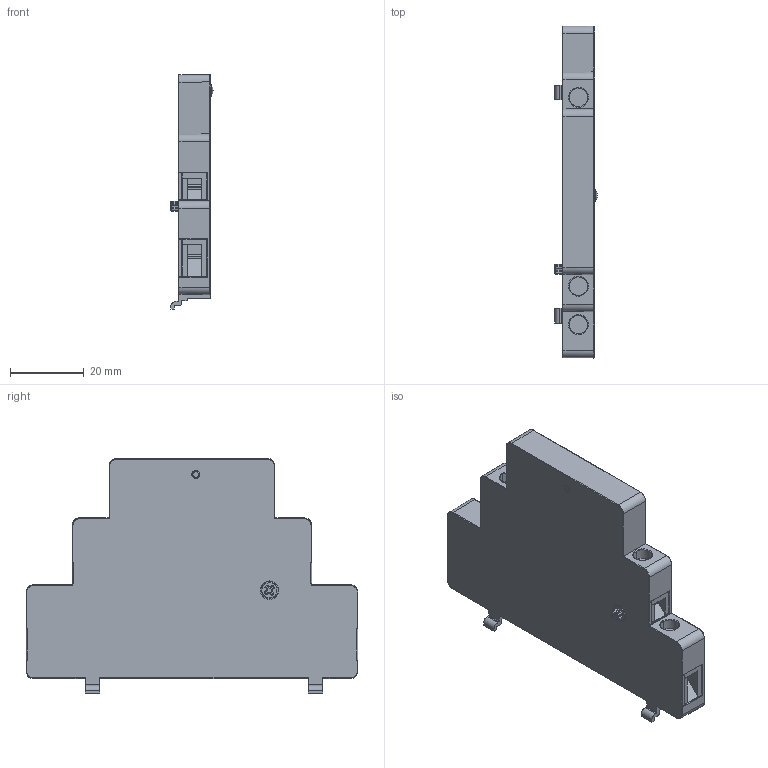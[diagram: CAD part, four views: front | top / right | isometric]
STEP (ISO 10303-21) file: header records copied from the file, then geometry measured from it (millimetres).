
FILE_DESCRIPTION (( 'STEP AP214' ), '1' );
FILE_NAME ('RBC-AUX-CM.STEP', '2024-04-15T09:00:10', ( '' ), ( '' ), 'SwSTEP 2.0', 'SolidWorks 2022', '' );
FILE_SCHEMA (( 'AUTOMOTIVE_DESIGN' ));
Length unit declared in the file: millimetre
Products named in the file (1): RBC-AUX-CM
Bounding box: 11.5 x 90 x 63.7 mm (x, y, z)
Volume: 36068.9 mm3; surface area: 12023.2 mm2
Topology: 1 solids, 2 shells, 389 faces, 1001 edges, 621 vertices
Faces by surface type: plane 215, cylinder 115, bspline 28, cone 11, sphere 10, torus 10
Entity records: 15709 total; most frequent: CARTESIAN_POINT 6415, ORIENTED_EDGE 1986, DIRECTION 1851, EDGE_CURVE 993, LINE 661, VECTOR 661, VERTEX_POINT 621, AXIS2_PLACEMENT_3D 595
